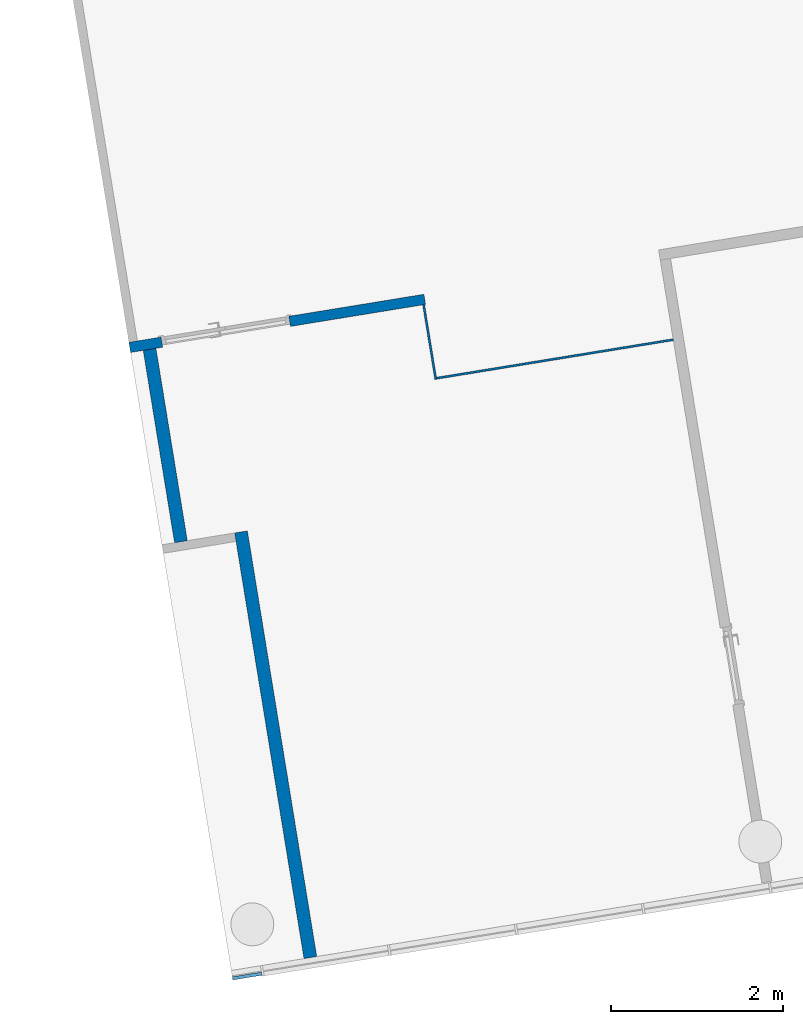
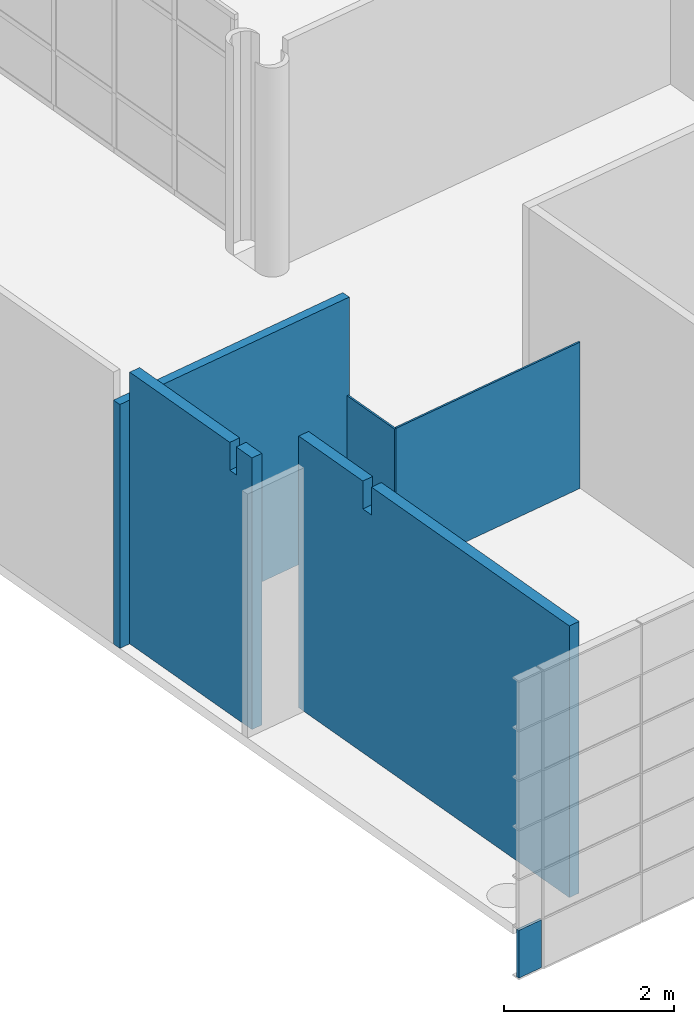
# One storey, part 9 of 18: 5 walls, 1 plate, 1 opening, 1 element without a shape of its own.
"""IFC2X3 building model written with IfcOpenShell, lengths in millimetres."""

from ifc_helpers import new_model, entity, si_unit, converted_unit, derived_unit, direction, frame, frame_2d, origin, origin_with_axes, place, context, subcontext, project, spatial, polyline, rectangle, extrude, clip, bounded_halfspace, faceted_brep, material, layer, layer_set, layer_usage, type_object, element, aggregate, save


model = new_model("IFC2X3")

# Units and contexts
model_context = context("Model", 3, precision=0.01, world=origin(), true_north=direction((6.12323399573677e-17, 1.0)))
plan_context = context("Plan", 3, precision=1e-05, world=origin_with_axes())
body_context = subcontext(model_context, "Body", "Model", "MODEL_VIEW")
ifc_project = project(units=[converted_unit("PLANEANGLEUNIT", "DEGREE", entity("IfcPositiveLengthMeasure", 0.0174532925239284), si_unit("PLANEANGLEUNIT", "RADIAN"), dimensions=[0, 0, 0, 0, 0, 0, 0]), si_unit("AREAUNIT", "SQUARE_METRE"), si_unit("LENGTHUNIT", "METRE", prefix="MILLI"), si_unit("MASSUNIT", "GRAM", prefix="KILO"), si_unit("POWERUNIT", "WATT"), si_unit("PRESSUREUNIT", "PASCAL", prefix="KILO"), si_unit("FORCEUNIT", "NEWTON", prefix="KILO"), si_unit("ELECTRICVOLTAGEUNIT", "VOLT"), si_unit("ELECTRICCURRENTUNIT", "AMPERE"), si_unit("THERMODYNAMICTEMPERATUREUNIT", "DEGREE_CELSIUS"), si_unit("TIMEUNIT", "SECOND"), si_unit("VOLUMEUNIT", "CUBIC_METRE"), derived_unit("LINEARVELOCITYUNIT", [(si_unit("LENGTHUNIT", "METRE"), 1), (si_unit("TIMEUNIT", "SECOND"), -1)]), derived_unit("VOLUMETRICFLOWRATEUNIT", [(si_unit("VOLUMEUNIT", "CUBIC_METRE"), 1), (si_unit("TIMEUNIT", "SECOND"), -1)]), derived_unit("THERMALTRANSMITTANCEUNIT", [(si_unit("POWERUNIT", "WATT"), 1), (si_unit("THERMODYNAMICTEMPERATUREUNIT", "KELVIN"), -1), (si_unit("AREAUNIT", "SQUARE_METRE"), -1)]), derived_unit("SOUNDPRESSUREUNIT", [(si_unit("PRESSUREUNIT", "PASCAL"), 1)])], contexts=[model_context, plan_context])

# Site, building, storey
site_placement = place(None, frame((-305029.896016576, -232111.759730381, 0.0), z_axis=(0.0, 0.0, 1.0), x_axis=(-0.160806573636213, 0.986985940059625, 0.0)))
site = spatial("IfcSite", under=ifc_project, at=site_placement, Name="Default", CompositionType="ELEMENT")
building_placement = place(site_placement, frame((0.0, 0.0, 0.0), z_axis=(0.0, 0.0, 1.0), x_axis=(1.0, -2.77555756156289e-17, 0.0)))
building = spatial("IfcBuilding", under=site, at=building_placement, Name="br001-a-200-1-0001", CompositionType="ELEMENT")
storey_placement = place(building_placement, frame((0.0, 0.0, 55500.0), z_axis=(0.0, 0.0, 1.0), x_axis=(1.0, -2.77555756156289e-17, 0.0)))
storey = spatial("IfcBuildingStorey", under=building, at=storey_placement, Name="H02-Nivå F-3,5 m", CompositionType="ELEMENT", Elevation=55500.0)

# Curtain wall, plate
curtain_wall_type = type_object("IfcCurtainWallType", Name="Curtain Wall:Flesland int curt wall", PredefinedType="NOTDEFINED")
curtain_wall_placement = place(storey_placement, frame((0.0, 0.0, -55500.0), z_axis=(0.0, 0.0, 1.0), x_axis=(1.0, -2.77555756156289e-17, 0.0)))
curtain_wall = element("IfcCurtainWall", 1, at=curtain_wall_placement, inside=storey, type_object=curtain_wall_type, Name="Curtain Wall:Flesland int curt wall", ObjectType="Curtain Wall:Flesland int curt wall")
ifc_material_1 = material(Name="Flesland - Finishes - Interior - Metal Panel")
plate_type = type_object("IfcPlateType", Name="System Panel:Flesland int curt wall solid", PredefinedType="CURTAIN_PANEL", material=ifc_material_1)
plate_placement = place(curtain_wall_placement, frame((1172125.09858442, -722043.878367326, 54786.0), z_axis=(0.0, 0.0, 1.0), x_axis=(-2.77555756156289e-17, -1.0, 0.0)))
plate = element("IfcPlate", 2, at=plate_placement, type_object=plate_type, Name="System Panel:Flesland int curt wall solid", ObjectType="System Panel:Flesland int curt wall solid", context=body_context, shape_type="Brep", body=[
    faceted_brep([(737.500000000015, -49.9999999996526, 0.0), (737.500000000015, -49.9999999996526, 686.0), (737.500000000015, -12.4999999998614, 686.0), (737.500000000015, -12.4999999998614, 0.0), (393.20107191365, -12.4999999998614, 686.0), (393.20107191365, -12.4999999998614, 0.0), (393.201071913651, -49.9999999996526, -1.13686837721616e-13), (393.201071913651, -49.9999999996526, 686.0)], [[[0, 1, 2, 3]], [[4, 5, 3, 2]], [[5, 6, 0, 3]], [[1, 7, 4, 2]], [[6, 5, 4, 7]], [[7, 1, 0, 6]]], orient=[[False], [False], [False], [False], [False], [False]]),
])
aggregate(curtain_wall, [plate])

# Wall, opening
ifc_material_2 = material(Name="_NSW Standard")
ifc_layer_1 = layer(ifc_material_2, 120.0)
ifc_layer_set_1 = layer_set([ifc_layer_1], Name="Basic Wall:A242 - Standard 120")
ifc_layer_usage_1 = layer_usage(ifc_layer_set_1, "AXIS2", "NEGATIVE", 60.0)
wall_type_1 = type_object("IfcWallType", Name="Basic Wall:A242 - Standard 120", PredefinedType="STANDARD", material=ifc_layer_set_1)
wall_1_placement = place(storey_placement, frame((1179547.59858442, -722437.07943924, 0.0), z_axis=(0.0, 0.0, 1.0), x_axis=(-2.77555756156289e-17, -1.0, 0.0)))
wall_1 = element("IfcWallStandardCase", 3, at=wall_1_placement, inside=storey, type_object=wall_type_1, material=ifc_layer_usage_1, Name="Basic Wall:A242 - Standard 120", ObjectType="Basic Wall:A242 - Standard 120", context=body_context, shape_type="SweptSolid", body=[
    extrude(rectangle(XDim=3484.29892777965, YDim=120.000000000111, at=frame_2d((1742.14946388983, 0.0), x_axis=(-1.0, 0.0))), origin(), (0.0, 0.0, 1.0), 3500.0),
])
opening_placement = place(wall_1_placement, frame((379.298927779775, -59.9999999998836, 0.0), z_axis=(0.0, 0.0, 1.0), x_axis=(1.0, -2.77555756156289e-17, 0.0)))
element("IfcOpeningElement", 4, at=opening_placement, cuts=wall_1, Name="NSW Innvendig slagdør, par:15M x 21M:1", ObjectType="Opening", context=body_context, shape_type="SweptSolid", body=[
    extrude(rectangle(XDim=2100.00000000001, YDim=1510.0, at=frame_2d((1050.0, 755.000000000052), x_axis=(1.0, 0.0))), frame((0.0, 0.0, 0.0), z_axis=(0.0, 1.0, 0.0), x_axis=(0.0, 0.0, 1.0)), (0.0, 0.0, 1.0), 120.0),
])

# Walls
ifc_layer_2 = layer(ifc_material_2, 150.0)
ifc_layer_set_2 = layer_set([ifc_layer_2], Name="Basic Wall:A242 - Standard 150")
ifc_layer_usage_2 = layer_usage(ifc_layer_set_2, "AXIS2", "NEGATIVE", 75.0)
wall_type_2 = type_object("IfcWallType", Name="Basic Wall:A242 - Standard 150", PredefinedType="STANDARD", material=ifc_layer_set_2)
wall_2_placement = place(storey_placement, frame((1172187.59858442, -723371.71510099, 0.0), z_axis=(0.0, 0.0, 1.0), x_axis=(1.0, -2.77555756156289e-17, 0.0)))
element("IfcWallStandardCase", 5, at=wall_2_placement, inside=storey, type_object=wall_type_2, material=ifc_layer_usage_2, Name="Basic Wall:A242 - Standard 150", ObjectType="Basic Wall:A242 - Standard 150", context=body_context, shape_type="Clipping", body=[
    clip(extrude(rectangle(XDim=5028.00000000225, YDim=150.00000000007, at=frame_2d((2514.00000000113, 0.0), x_axis=(-1.0, 0.0))), origin(), (0.0, 0.0, 1.0), 3900.00000000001), bounded_halfspace(frame((3676.50000000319, 75.0, 3500.0), z_axis=(0.0, 0.0, -1.0), x_axis=(1.0, 0.0, 0.0)), True, frame((3676.50000000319, 75.0, 3500.0), z_axis=(0.0, 0.0, -1.0), x_axis=(1.0, 0.0, 0.0)), polyline([(0.0, 0.0), (160.0, 0.0), (160.0, 150.0), (0.0, 150.0), (0.0, 0.0)]))),
])
ifc_layer_usage_3 = layer_usage(ifc_layer_set_2, "AXIS2", "NEGATIVE", 75.0)
wall_3_placement = place(storey_placement, frame((1177215.59858442, -722661.860278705, 0.0), z_axis=(0.0, 0.0, 1.0), x_axis=(1.0, -2.77555756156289e-17, 0.0)))
element("IfcWallStandardCase", 6, at=wall_3_placement, inside=storey, type_object=wall_type_2, material=ifc_layer_usage_3, Name="Basic Wall:A242 - Standard 150", ObjectType="Basic Wall:A242 - Standard 150", context=body_context, shape_type="Clipping", body=[
    clip(extrude(rectangle(XDim=2271.99999999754, YDim=150.00000000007, at=frame_2d((1135.99999999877, 0.0), x_axis=(-1.0, 0.0))), origin(), (0.0, 0.0, 1.0), 3900.00000000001), bounded_halfspace(frame((292.0, 75.0, 3500.0), z_axis=(0.0, 0.0, -1.0), x_axis=(1.0, 0.0, 0.0)), True, frame((292.0, 75.0, 3500.0), z_axis=(0.0, 0.0, -1.0), x_axis=(1.0, 0.0, 0.0)), polyline([(0.0, 0.0), (120.0, 0.0), (120.0, 150.0), (0.0, 150.0), (0.0, 0.0)]))),
])
ifc_layer_3 = layer(ifc_material_2, 25.0)
ifc_layer_set_3 = layer_set([ifc_layer_3], Name="Basic Wall:A242 - Standard 25")
ifc_layer_usage_4 = layer_usage(ifc_layer_set_3, "AXIS2", "NEGATIVE", 12.5)
wall_type_3 = type_object("IfcWallType", Name="Basic Wall:A242 - Standard 25", PredefinedType="STANDARD", material=ifc_layer_set_3)
wall_4_placement = place(storey_placement, frame((1179487.59858442, -725898.87836702, 0.0), z_axis=(0.0, 0.0, 1.0), x_axis=(-1.0, 2.77555756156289e-17, 0.0)))
element("IfcWallStandardCase", 7, at=wall_4_placement, inside=storey, type_object=wall_type_3, material=ifc_layer_usage_4, Name="Basic Wall:A242 - Standard 25", ObjectType="Basic Wall:A242 - Standard 25", context=body_context, shape_type="SweptSolid", body=[
    extrude(rectangle(XDim=882.499999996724, YDim=25.0000000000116, at=frame_2d((441.249999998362, 0.0), x_axis=(-1.0, 0.0))), origin(), (0.0, 0.0, 1.0), 2100.00000000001),
])
ifc_layer_usage_5 = layer_usage(ifc_layer_set_3, "AXIS2", "NEGATIVE", 12.5)
wall_5_placement = place(storey_placement, frame((1178617.59858442, -725911.37836702, 0.0), z_axis=(0.0, 0.0, 1.0), x_axis=(-2.77555756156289e-17, -1.0, 0.0)))
element("IfcWallStandardCase", 8, at=wall_5_placement, inside=storey, type_object=wall_type_3, material=ifc_layer_usage_5, Name="Basic Wall:A242 - Standard 25", ObjectType="Basic Wall:A242 - Standard 25", context=body_context, shape_type="SweptSolid", body=[
    extrude(rectangle(XDim=2794.99999999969, YDim=25.0000000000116, at=frame_2d((1397.49999999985, 0.0), x_axis=(-1.0, 0.0))), origin(), (0.0, 0.0, 1.0), 2100.00000000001),
])

save(model, "model.ifc")
